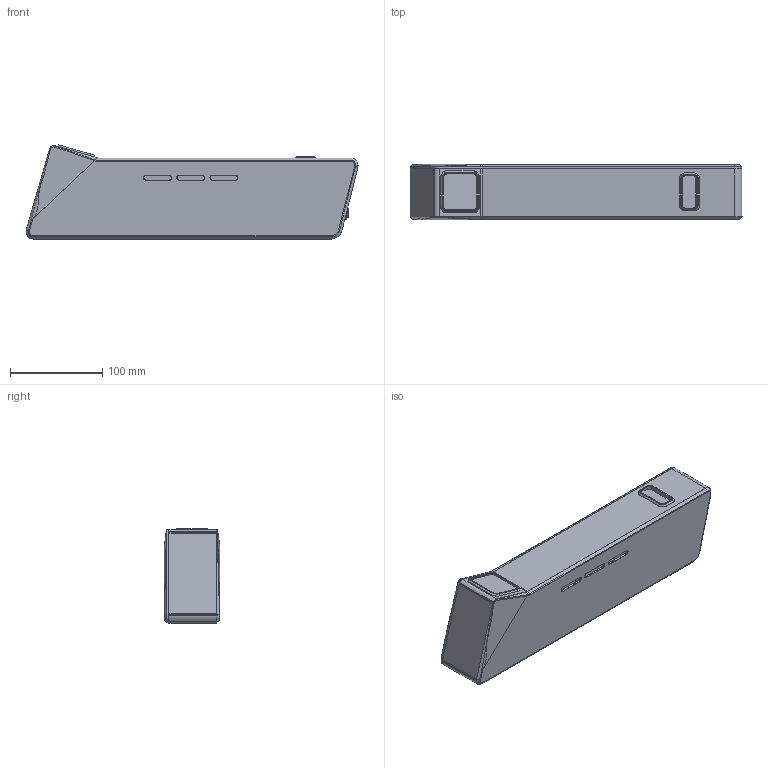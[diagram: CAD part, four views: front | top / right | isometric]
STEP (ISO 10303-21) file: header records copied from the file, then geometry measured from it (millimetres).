
FILE_DESCRIPTION((''),'2;1');
FILE_NAME('PRT0001','2024-07-23T09:40:24',('309191'),(''),'CREO PARAMETRIC BY PTC INC, 2020184','CREO PARAMETRIC BY PTC INC, 2020184','');
FILE_SCHEMA(('CONFIG_CONTROL_DESIGN','SHAPE_APPEARANCE_LAYERS_GROUPS'));
Products named in the file (1): PRT0001
Bounding box: 360.37 x 60 x 102.21 mm (x, y, z)
Volume: 1793713.1 mm3; surface area: 127875.4 mm2
Topology: 1 solids, 78 shells, 1710 faces, 4480 edges, 2903 vertices
Faces by surface type: cylinder 697, plane 393, cone 303, torus 177, bspline 130, sphere 10
Entity records: 90733 total; most frequent: CARTESIAN_POINT 23092, DIRECTION 9239, ORIENTED_EDGE 8766, PRESENTATION_STYLE_ASSIGNMENT 6125, STYLED_ITEM 4471, CURVE_STYLE 4419, EDGE_CURVE 4419, AXIS2_PLACEMENT_3D 3884
